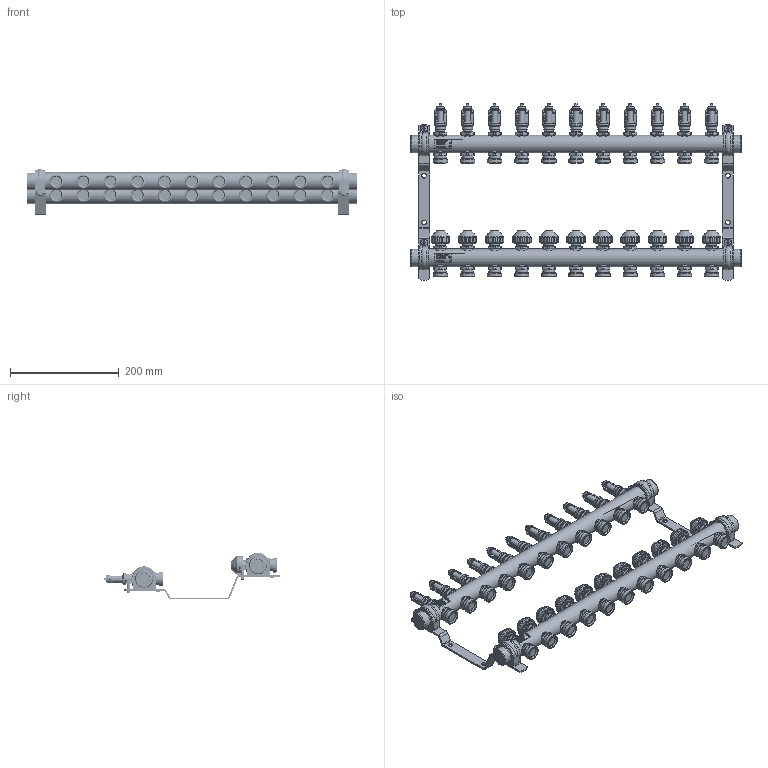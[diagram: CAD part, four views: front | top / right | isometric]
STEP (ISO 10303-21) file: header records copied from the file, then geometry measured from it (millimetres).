
FILE_DESCRIPTION((''),'2;1');
FILE_NAME('C:\Users\duckj\Desktop\10026193.stp','2017-04-20T11:13:26',('duckj'),(''),'Autodesk Inventor 2013','Autodesk Inventor 2013','');
FILE_SCHEMA(('CONFIG_CONTROL_DESIGN'));
Length unit declared in the file: millimetre
Products named in the file (4): 20042017_012; 20042017_015; 20042017_016; 26102016_005
Assembly tree (4 placements, depth 2):
  20042017_012
    20042017_015
    20042017_016
    26102016_005  x2
Bounding box: 610 x 325.94 x 85.7 mm (x, y, z)
Volume: 1676054 mm3; surface area: 318467.7 mm2
Topology: 4 solids, 4 shells, 5978 faces, 15981 edges, 10324 vertices
Faces by surface type: plane 3308, cylinder 1035, bspline 754, cone 748, torus 129, sphere 4
Full cylindrical faces by diameter (mm): 3 x11, 6 x8, 8.5 x4, 12 x4, 15 x11, 15.5 x11, 16.5 x11, 18 x11, 19.5 x11, 21.8 x44, 22 x70, 26.441 x22, 31.8 x4, 33 x4, 33.7 x11
Entity records: 239596 total; most frequent: CARTESIAN_POINT 97517, ORIENTED_EDGE 29998, DIRECTION 25396, EDGE_CURVE 14999, VERTEX_POINT 9945, AXIS2_PLACEMENT_3D 8667, VECTOR 8062, LINE 8062
